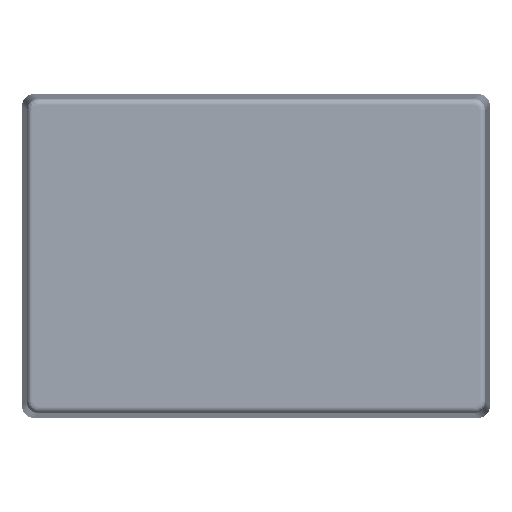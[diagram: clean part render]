
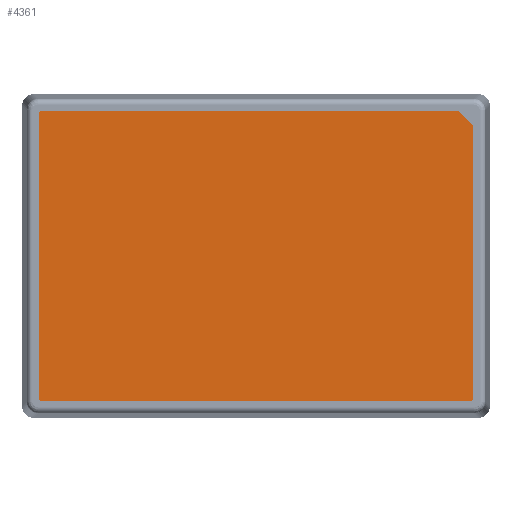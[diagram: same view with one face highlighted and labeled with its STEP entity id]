
A CAD part, front view. The second image highlights one B-rep face of the part: STEP entity #4361.
In plain terms, the highlighted planar face has unit normal (0, -1, 0).
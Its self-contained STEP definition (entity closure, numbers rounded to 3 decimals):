
#206 = CARTESIAN_POINT ( 'NONE',  ( 36.5, -30.3, -24.75 ) ) ;
#543 = LINE ( 'NONE', #14624, #90193 ) ;
#765 = CARTESIAN_POINT ( 'NONE',  ( -36.5, -30.3, 24.75 ) ) ;
#1535 = CARTESIAN_POINT ( 'NONE',  ( -37., -30.3, 24.75 ) ) ;
#3943 = CARTESIAN_POINT ( 'NONE',  ( -36.5, -30.3, -24.25 ) ) ;
#4361 = ADVANCED_FACE ( 'NONE', ( #62839 ), #7217, .T. ) ;
#5093 = EDGE_CURVE ( 'NONE', #42816, #87494, #5835, .T. ) ;
#5835 = LINE ( 'NONE', #20883, #47094 ) ;
#6380 = AXIS2_PLACEMENT_3D ( 'NONE', #55317, #23106, #24651 ) ;
#7217 = PLANE ( 'NONE',  #46785 ) ;
#8363 = CARTESIAN_POINT ( 'NONE',  ( -37., -30.3, 24.75 ) ) ;
#8843 = DIRECTION ( 'NONE',  ( 0., 0., -1. ) ) ;
#9453 = EDGE_CURVE ( 'NONE', #48393, #73574, #72842, .T. ) ;
#10352 = ORIENTED_EDGE ( 'NONE', *, *, #37198, .T. ) ;
#10750 = EDGE_CURVE ( 'NONE', #82173, #100200, #95194, .T. ) ;
#13919 = VERTEX_POINT ( 'NONE', #34586 ) ;
#14494 = DIRECTION ( 'NONE',  ( 0., 0., -1. ) ) ;
#14624 = CARTESIAN_POINT ( 'NONE',  ( 29.625, -30.3, 29.625 ) ) ;
#16731 = DIRECTION ( 'NONE',  ( 0., 0., -1. ) ) ;
#17739 = DIRECTION ( 'NONE',  ( 0., -1., 0. ) ) ;
#18565 = CARTESIAN_POINT ( 'NONE',  ( -37., -30.3, -24.25 ) ) ;
#20883 = CARTESIAN_POINT ( 'NONE',  ( 37., -30.3, 24.75 ) ) ;
#22030 = DIRECTION ( 'NONE',  ( 1., 0., 0. ) ) ;
#23106 = DIRECTION ( 'NONE',  ( 0., -1., 0. ) ) ;
#23323 = ORIENTED_EDGE ( 'NONE', *, *, #74804, .T. ) ;
#24651 = DIRECTION ( 'NONE',  ( 0., 0., -1. ) ) ;
#25478 = AXIS2_PLACEMENT_3D ( 'NONE', #3943, #66892, #57561 ) ;
#25930 = EDGE_CURVE ( 'NONE', #31457, #42816, #101049, .T. ) ;
#27511 = VECTOR ( 'NONE', #22030, 1000. ) ;
#28211 = EDGE_CURVE ( 'NONE', #13919, #31457, #76184, .T. ) ;
#31457 = VERTEX_POINT ( 'NONE', #206 ) ;
#32276 = DIRECTION ( 'NONE',  ( -0.707, 0., 0.707 ) ) ;
#34175 = EDGE_LOOP ( 'NONE', ( #100697, #91836, #50198, #66835, #92162, #23323, #100578, #10352 ) ) ;
#34586 = CARTESIAN_POINT ( 'NONE',  ( -36.5, -30.3, -24.75 ) ) ;
#37198 = EDGE_CURVE ( 'NONE', #100200, #48393, #86115, .T. ) ;
#41120 = EDGE_CURVE ( 'NONE', #73574, #13919, #48804, .T. ) ;
#42816 = VERTEX_POINT ( 'NONE', #73616 ) ;
#44689 = CARTESIAN_POINT ( 'NONE',  ( 34.5, -30.3, 24.75 ) ) ;
#46785 = AXIS2_PLACEMENT_3D ( 'NONE', #52987, #69653, #14494 ) ;
#47094 = VECTOR ( 'NONE', #67738, 1000. ) ;
#48393 = VERTEX_POINT ( 'NONE', #71213 ) ;
#48804 = CIRCLE ( 'NONE', #25478, 0.5 ) ;
#50198 = ORIENTED_EDGE ( 'NONE', *, *, #28211, .T. ) ;
#52484 = VECTOR ( 'NONE', #8843, 1000. ) ;
#52987 = CARTESIAN_POINT ( 'NONE',  ( 0., -30.3, 0. ) ) ;
#55317 = CARTESIAN_POINT ( 'NONE',  ( -36.5, -30.3, 24.25 ) ) ;
#57561 = DIRECTION ( 'NONE',  ( 0., 0., -1. ) ) ;
#61123 = AXIS2_PLACEMENT_3D ( 'NONE', #89019, #17739, #16731 ) ;
#62839 = FACE_OUTER_BOUND ( 'NONE', #34175, .T. ) ;
#62938 = DIRECTION ( 'NONE',  ( -1., 0., 0. ) ) ;
#66835 = ORIENTED_EDGE ( 'NONE', *, *, #25930, .T. ) ;
#66892 = DIRECTION ( 'NONE',  ( 0., -1., 0. ) ) ;
#67738 = DIRECTION ( 'NONE',  ( 0., 0., 1. ) ) ;
#69653 = DIRECTION ( 'NONE',  ( 0., -1., 0. ) ) ;
#69924 = CARTESIAN_POINT ( 'NONE',  ( -37., -30.3, -24.75 ) ) ;
#70956 = VECTOR ( 'NONE', #62938, 1000. ) ;
#71213 = CARTESIAN_POINT ( 'NONE',  ( -37., -30.3, 24.25 ) ) ;
#72842 = LINE ( 'NONE', #1535, #52484 ) ;
#73574 = VERTEX_POINT ( 'NONE', #18565 ) ;
#73616 = CARTESIAN_POINT ( 'NONE',  ( 37., -30.3, -24.25 ) ) ;
#74804 = EDGE_CURVE ( 'NONE', #87494, #82173, #543, .T. ) ;
#76184 = LINE ( 'NONE', #69924, #27511 ) ;
#82173 = VERTEX_POINT ( 'NONE', #44689 ) ;
#86115 = CIRCLE ( 'NONE', #6380, 0.5 ) ;
#87494 = VERTEX_POINT ( 'NONE', #94847 ) ;
#89019 = CARTESIAN_POINT ( 'NONE',  ( 36.5, -30.3, -24.25 ) ) ;
#90193 = VECTOR ( 'NONE', #32276, 1000. ) ;
#91836 = ORIENTED_EDGE ( 'NONE', *, *, #41120, .T. ) ;
#92162 = ORIENTED_EDGE ( 'NONE', *, *, #5093, .T. ) ;
#94847 = CARTESIAN_POINT ( 'NONE',  ( 37., -30.3, 22.25 ) ) ;
#95194 = LINE ( 'NONE', #8363, #70956 ) ;
#100200 = VERTEX_POINT ( 'NONE', #765 ) ;
#100578 = ORIENTED_EDGE ( 'NONE', *, *, #10750, .T. ) ;
#100697 = ORIENTED_EDGE ( 'NONE', *, *, #9453, .T. ) ;
#101049 = CIRCLE ( 'NONE', #61123, 0.5 ) ;
